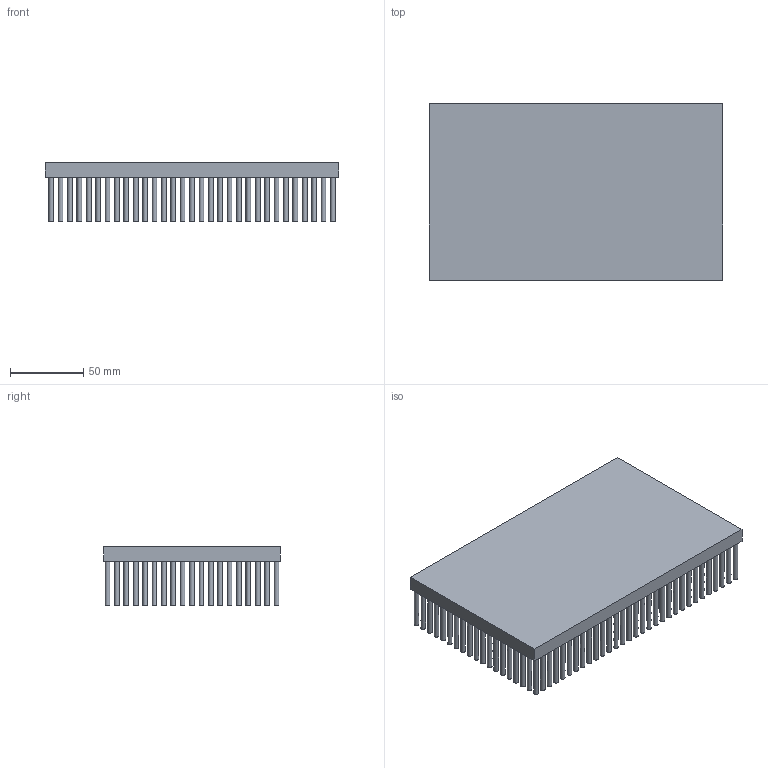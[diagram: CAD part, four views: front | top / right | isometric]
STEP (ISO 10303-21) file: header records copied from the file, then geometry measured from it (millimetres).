
FILE_DESCRIPTION(/* description */ (''),/* implementation_level */ '2;1');
FILE_NAME(/* name */ 'FP200120- 589.stp',/* time_stamp */ '2013-08-21T08:49:33+08:00',/* author */ (''),/* organization */ (''),/* preprocessor_version */ 'ST-DEVELOPER v14',/* originating_system */ 'SIEMENS PLM Software NX 8.0',/* authorisation */ '');
FILE_SCHEMA (('CONFIG_CONTROL_DESIGN'));
Length unit declared in the file: millimetre
Products named in the file (1): FP200120- 589
Bounding box: 200 x 120 x 40 mm (x, y, z)
Volume: 382351.8 mm3; surface area: 241829.9 mm2
Topology: 591 solids, 591 shells, 1776 faces, 1782 edges, 1188 vertices
Faces by surface type: plane 1186, cylinder 590
Full cylindrical faces by diameter (mm): 3.2 x590
Entity records: 28560 total; most frequent: DIRECTION 5926, CARTESIAN_POINT 4157, AXIS2_PLACEMENT_3D 2957, ORIENTED_EDGE 2384, EDGE_LOOP 2366, ADVANCED_FACE 1776, EDGE_CURVE 1192, VERTEX_POINT 1188
